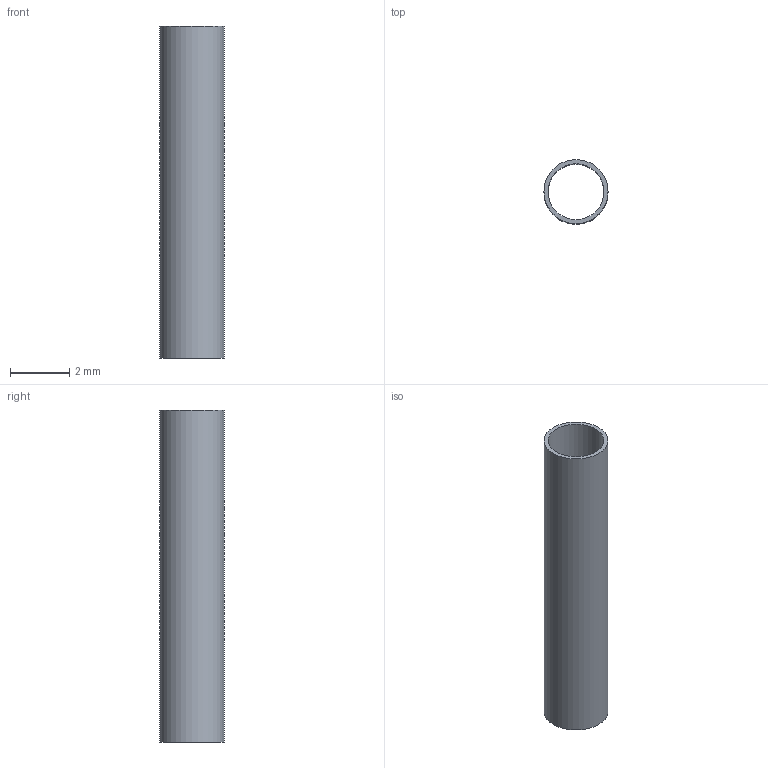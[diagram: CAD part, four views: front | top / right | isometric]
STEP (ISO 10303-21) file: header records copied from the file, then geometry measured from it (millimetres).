
FILE_DESCRIPTION(/* description */ (''),/* implementation_level */ '2;1');
FILE_NAME(/* name */ 'C:\Users\krisham\Desktop\New folder (2)\Part23.stp',/* time_stamp */ '2014-05-31T22:59:05-07:00',/* author */ ('krisham'),/* organization */ (''),/* preprocessor_version */ 'ST-DEVELOPER v15.2',/* originating_system */ 'Autodesk Inventor 2014',/* authorisation */ '');
FILE_SCHEMA (('AUTOMOTIVE_DESIGN { 1 0 10303 214 3 1 1 }'));
Length unit declared in the file: inch
Products named in the file (1): Part23
Bounding box: 2.16 x 2.16 x 11.18 mm (x, y, z)
Volume: 9.9 mm3; surface area: 143.7 mm2
Topology: 1 solids, 1 shells, 4 faces, 6 edges, 4 vertices
Faces by surface type: cylinder 2, plane 2
Full cylindrical faces by diameter (mm): 1.881 x1, 2.16 x1
Entity records: 111 total; most frequent: DIRECTION 18, CARTESIAN_POINT 13, AXIS2_PLACEMENT_3D 9, EDGE_LOOP 8, ORIENTED_EDGE 8, FACE_BOUND 6, CIRCLE 4, VERTEX_POINT 4
